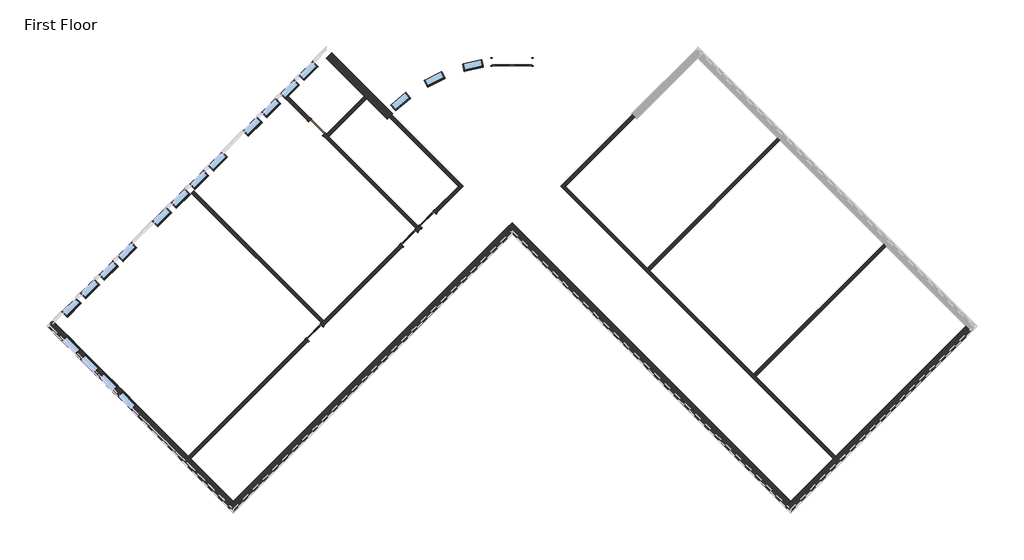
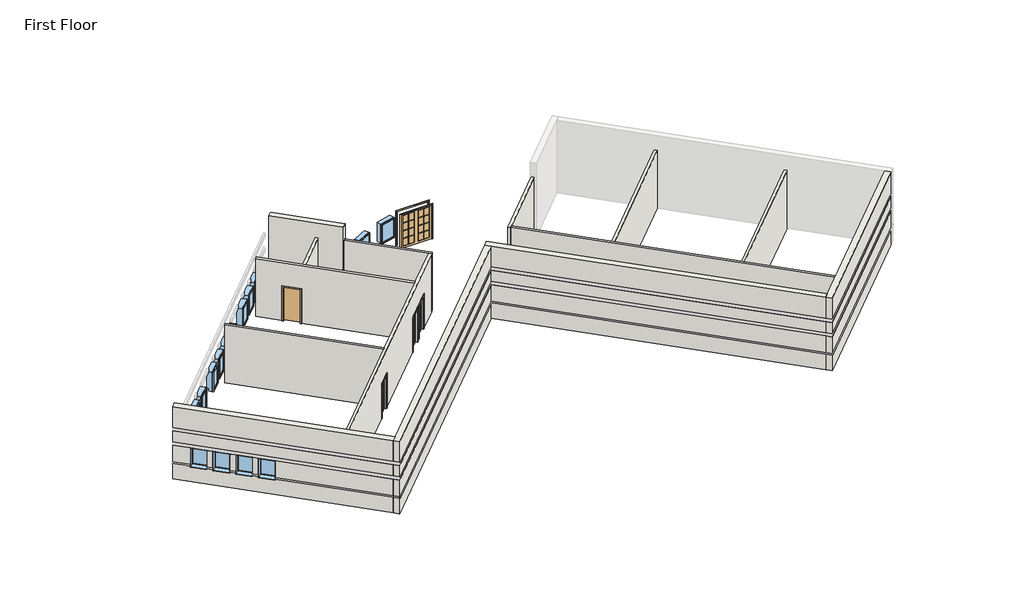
# One storey, part 1 of 2: 19 windows, 14 walls, 5 doors.
"""IFC4 building model written with IfcOpenShell, lengths in millimetres."""

from ifc_helpers import new_model, si_unit, frame, origin, origin_with_axes, place, context, project, spatial, polyline, circle_curve, outline, extrude, faceted_brep, transform, mapped, element, save
from ifc_brep_helpers import plane_surface, cylinder_surface, revolved_surface, advanced_brep
from components import door_0a477ef8, door_f9494b7c, door_b81abb0e, door_5f5b55da, window_15c49d37, window_0e2fc6ce

model = new_model("IFC4")

# Units and contexts
model_context = context("Model", 3, world=origin())
ifc_project = project(units=[si_unit("LENGTHUNIT", "METRE", prefix="MILLI")], contexts=[model_context])

# Site, building, storey
site = spatial("IfcSite", under=ifc_project)
building = spatial("IfcBuilding", under=site)
storey = spatial("IfcBuildingStorey", under=building, Name="First Floor", Elevation=0.0)

# Doors
placement = place(None, origin())
door_shape = door_0a477ef8(model_context)
element("IfcDoor", 1, ObjectType="Double-Glass 2 : 72\" x 84\"", at=placement, inside=storey, context=model_context, shape_type="MappedRepresentation", body=[
    mapped(door_shape, transform((-2868.7603243, 10905.5717204, 0.0), x_axis=(-0.9999999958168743, -9.146721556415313e-05, 0.0), y_axis=(9.146721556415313e-05, -0.9999999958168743, 0.0), z_axis=(0.0, 0.0, 1.0))),
])
door_2_shape = door_f9494b7c(model_context)
element("IfcDoor", 2, ObjectType="Single-Flush : 36\" x 84\"", at=placement, inside=storey, context=model_context, shape_type="MappedRepresentation", body=[
    mapped(door_2_shape, transform((-11920.1265343, 7875.9588464, 0.0), x_axis=(0.7071067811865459, -0.7071067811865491, 0.0), y_axis=(0.7071067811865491, 0.7071067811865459, 0.0), z_axis=(0.0, 0.0, 1.0))),
])
door_3_shape = door_b81abb0e(model_context)
element("IfcDoor", 3, ObjectType="Single-Glass 1 : 36\" x 84\"", at=placement, inside=storey, context=model_context, shape_type="MappedRepresentation", body=[
    mapped(door_3_shape, transform((-12027.7718255, -1647.4849877, 0.0), x_axis=(0.7071067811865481, 0.7071067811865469, 0.0), y_axis=(-0.7071067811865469, 0.7071067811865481, 0.0), z_axis=(0.0, 0.0, 1.0))),
])
element("IfcDoor", 4, ObjectType="Single-Glass 1 : 36\" x 84\"", at=placement, inside=storey, context=model_context, shape_type="MappedRepresentation", body=[
    mapped(door_3_shape, transform((-7643.2795567, 2737.0072811, 0.0), x_axis=(0.7071067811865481, 0.7071067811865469, 0.0), y_axis=(-0.7071067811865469, 0.7071067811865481, 0.0), z_axis=(0.0, 0.0, 1.0))),
])
door_4_shape = door_5f5b55da(model_context)
element("IfcDoor", 5, ObjectType="Single-Glass 1 : 36\" x 84\"", at=placement, inside=storey, context=model_context, shape_type="MappedRepresentation", body=[
    mapped(door_4_shape, transform((-6781.1749691, 3599.1118687, 0.0), x_axis=(-0.7071067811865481, -0.7071067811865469, 0.0), y_axis=(0.7071067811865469, -0.7071067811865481, 0.0), z_axis=(0.0, 0.0, 1.0))),
])

# Walls
element("IfcWall", 6, ObjectType="Exterior - Split Face and CMU on Mtl. Stud", at=placement, inside=storey, context=model_context, shape_type="Brep", body=[
    faceted_brep([(18186.1821115, -1357.9895101, 4572.0), (10063.54045, -9480.6311716, 4572.0), (9814.3383427, -9729.833279, 4572.0), (10063.54045, -9979.0353863, 4572.0), (18435.3842189, -1607.1916175, 4572.0), (18186.1821115, -1357.9895101, 0.0), (12149.2049342, -7394.9666875, 0.0), (12039.1967967, -7504.974825, 0.0), (10063.54045, -9480.6311716, 0.0), (9814.3383427, -9729.833279, 0.0), (9814.3383427, -9729.833279, 1016.0), (9879.4451996, -9664.7264221, 1016.0), (9879.4451996, -9664.7264221, 1085.85), (9814.3383427, -9729.833279, 1085.85), (9814.3383427, -9729.833279, 2133.6), (9879.4451996, -9664.7264221, 2133.6), (9879.4451996, -9664.7264221, 2336.8), (9814.3383427, -9729.833279, 2336.8), (9814.3383427, -9729.833279, 3048.0), (9879.4451996, -9664.7264221, 3048.0), (9879.4451996, -9664.7264221, 3251.2), (9814.3383427, -9729.833279, 3251.2), (10063.54045, -9979.0353863, 3251.2), (18435.3842189, -1607.1916175, 3251.2), (10063.54045, -9979.0353863, 0.0), (18435.3842189, -1607.1916175, 0.0), (18435.3842189, -1607.1916175, 1016.0), (10063.54045, -9979.0353863, 1016.0), (10063.54045, -9979.0353863, 1085.85), (18435.3842189, -1607.1916175, 1085.85), (18435.3842189, -1607.1916175, 2133.6), (10063.54045, -9979.0353863, 2133.6), (10063.54045, -9979.0353863, 2336.8), (18435.3842189, -1607.1916175, 2336.8), (18435.3842189, -1607.1916175, 3048.0), (10063.54045, -9979.0353863, 3048.0), (18370.277362, -1542.0847606, 0.0), (9998.4335932, -9913.9285294, 0.0), (18370.277362, -1542.0847606, 3251.2), (18370.277362, -1542.0847606, 3048.0), (18370.277362, -1542.0847606, 2336.8), (18370.277362, -1542.0847606, 2133.6), (18370.277362, -1542.0847606, 1085.85), (18370.277362, -1542.0847606, 1016.0), (10063.54045, -9848.8216726, 1085.85), (10063.54045, -9848.8216726, 1016.0), (10063.54045, -9848.8216726, 2133.6), (10063.54045, -9848.8216726, 2336.8), (10063.54045, -9848.8216726, 3048.0), (10063.54045, -9848.8216726, 3251.2)], [[[0, 1, 2, 3, 4]], [[5, 6, 7, 8, 9, 10, 11, 12, 13, 14, 15, 16, 17, 18, 19, 20, 21, 2, 1, 0]], [[4, 3, 22, 23]], [[24, 25, 26, 27]], [[28, 29, 30, 31]], [[32, 33, 34, 35]], [[9, 8, 7, 6, 5, 36, 37]], [[5, 0, 4, 23, 38, 39, 34, 33, 40, 41, 30, 29, 42, 43, 26, 25, 36]], [[25, 24, 37, 36]], [[3, 2, 21, 22]], [[9, 37, 24, 27, 10]], [[13, 28, 31, 14]], [[17, 32, 35, 18]], [[12, 44, 42, 29, 28, 13]], [[43, 45, 11, 10, 27, 26]], [[44, 45, 43, 42]], [[45, 44, 12, 11]], [[41, 46, 15, 14, 31, 30]], [[16, 47, 40, 33, 32, 17]], [[47, 46, 41, 40]], [[46, 47, 16, 15]], [[39, 48, 19, 18, 35, 34]], [[20, 49, 38, 23, 22, 21]], [[49, 48, 39, 38]], [[48, 49, 20, 19]]]),
])
element("IfcWall", 7, ObjectType="Exterior - Split Face and CMU on Mtl. Stud", at=placement, inside=storey, context=model_context, shape_type="Brep", body=[
    faceted_brep([(10063.54045, -9480.6311716, 0.0), (-2868.0283643, 3450.9376427, 0.0), (-2868.0283643, 3450.9376427, 4572.0), (10063.54045, -9480.6311716, 4572.0), (9814.3383427, -9729.833279, 4572.0), (-2868.0283643, 2952.533428, 4572.0), (-3117.2304717, 3201.7355354, 4572.0), (-3117.2304717, 3201.7355354, 0.0), (-2868.0283643, 2952.533428, 0.0), (9814.3383427, -9729.833279, 0.0), (9814.3383427, -9729.833279, 1016.0), (-2868.0283643, 2952.533428, 1016.0), (-2933.1352212, 3017.6402849, 1016.0), (-2933.1352212, 3017.6402849, 1085.85), (-2868.0283643, 2952.533428, 1085.85), (9814.3383427, -9729.833279, 1085.85), (9814.3383427, -9729.833279, 2133.6), (-2868.0283643, 2952.533428, 2133.6), (-2933.1352212, 3017.6402849, 2133.6), (-2933.1352212, 3017.6402849, 2336.8), (-2868.0283643, 2952.533428, 2336.8), (9814.3383427, -9729.833279, 2336.8), (9814.3383427, -9729.833279, 3048.0), (-2868.0283643, 2952.533428, 3048.0), (-2933.1352212, 3017.6402849, 3048.0), (-2933.1352212, 3017.6402849, 3251.2), (-2868.0283643, 2952.533428, 3251.2), (9814.3383427, -9729.833279, 3251.2), (-3052.1236148, 3266.8423923, 0.0), (9879.4451996, -9664.7264221, 3251.2), (9879.4451996, -9664.7264221, 3048.0), (9879.4451996, -9664.7264221, 2336.8), (9879.4451996, -9664.7264221, 2133.6), (9879.4451996, -9664.7264221, 1085.85), (9879.4451996, -9664.7264221, 1016.0), (9879.4451996, -9664.7264221, 0.0), (-2868.0283643, 3082.7471418, 1085.85), (-2868.0283643, 3082.7471418, 1016.0), (-2868.0283643, 3082.7471418, 2133.6), (-2868.0283643, 3082.7471418, 2336.8), (-2868.0283643, 3082.7471418, 3048.0), (-2868.0283643, 3082.7471418, 3251.2)], [[[0, 1, 2, 3]], [[4, 5, 6, 7, 8, 9, 10, 11, 12, 13, 14, 15, 16, 17, 18, 19, 20, 21, 22, 23, 24, 25, 26, 27]], [[3, 2, 6, 5, 4]], [[2, 1, 28, 7, 6]], [[0, 3, 4, 27, 29, 30, 22, 21, 31, 32, 16, 15, 33, 34, 10, 9, 35]], [[1, 0, 35, 28]], [[35, 9, 8, 7, 28]], [[13, 36, 33, 15, 14]], [[34, 37, 12, 11, 10]], [[36, 37, 34, 33]], [[37, 36, 13, 12]], [[32, 38, 18, 17, 16]], [[19, 39, 31, 21, 20]], [[39, 38, 32, 31]], [[38, 39, 19, 18]], [[30, 40, 24, 23, 22]], [[25, 41, 29, 27, 26]], [[41, 40, 30, 29]], [[40, 41, 25, 24]]]),
])
element("IfcWall", 8, ObjectType="Exterior - Split Face and CMU on Mtl. Stud", at=placement, inside=storey, context=model_context, shape_type="Brep", body=[
    faceted_brep([(-3117.2304717, 3201.7355354, 4572.0), (-15799.5971786, -9480.6311716, 4572.0), (-16048.799286, -9729.833279, 4572.0), (-15799.5971786, -9979.0353863, 4572.0), (-2868.0283643, 2952.533428, 4572.0), (-3117.2304717, 3201.7355354, 0.0), (-15799.5971786, -9480.6311716, 0.0), (-16048.799286, -9729.833279, 0.0), (-16048.799286, -9729.833279, 1016.0), (-15983.6924291, -9664.7264221, 1016.0), (-15983.6924291, -9664.7264221, 1085.85), (-16048.799286, -9729.833279, 1085.85), (-16048.799286, -9729.833279, 2133.6), (-15983.6924291, -9664.7264221, 2133.6), (-15983.6924291, -9664.7264221, 2336.8), (-16048.799286, -9729.833279, 2336.8), (-16048.799286, -9729.833279, 3048.0), (-15983.6924291, -9664.7264221, 3048.0), (-15983.6924291, -9664.7264221, 3251.2), (-16048.799286, -9729.833279, 3251.2), (-15799.5971786, -9979.0353863, 3251.2), (-2868.0283643, 2952.533428, 3251.2), (-15799.5971786, -9979.0353863, 0.0), (-2868.0283643, 2952.533428, 0.0), (-2868.0283643, 2952.533428, 1016.0), (-15799.5971786, -9979.0353863, 1016.0), (-15799.5971786, -9979.0353863, 1085.85), (-2868.0283643, 2952.533428, 1085.85), (-2868.0283643, 2952.533428, 2133.6), (-15799.5971786, -9979.0353863, 2133.6), (-15799.5971786, -9979.0353863, 2336.8), (-2868.0283643, 2952.533428, 2336.8), (-2868.0283643, 2952.533428, 3048.0), (-15799.5971786, -9979.0353863, 3048.0), (-2933.1352212, 3017.6402849, 0.0), (-15864.7040355, -9913.9285294, 0.0), (-2933.1352212, 3017.6402849, 3251.2), (-2933.1352212, 3017.6402849, 3048.0), (-2933.1352212, 3017.6402849, 2336.8), (-2933.1352212, 3017.6402849, 2133.6), (-2933.1352212, 3017.6402849, 1085.85), (-2933.1352212, 3017.6402849, 1016.0), (-15799.5971786, -9848.8216726, 1085.85), (-15799.5971786, -9848.8216726, 1016.0), (-15799.5971786, -9848.8216726, 2133.6), (-15799.5971786, -9848.8216726, 2336.8), (-15799.5971786, -9848.8216726, 3048.0), (-15799.5971786, -9848.8216726, 3251.2)], [[[0, 1, 2, 3, 4]], [[5, 6, 7, 8, 9, 10, 11, 12, 13, 14, 15, 16, 17, 18, 19, 2, 1, 0]], [[4, 3, 20, 21]], [[22, 23, 24, 25]], [[26, 27, 28, 29]], [[30, 31, 32, 33]], [[7, 6, 5, 34, 35]], [[5, 0, 4, 21, 36, 37, 32, 31, 38, 39, 28, 27, 40, 41, 24, 23, 34]], [[23, 22, 35, 34]], [[3, 2, 19, 20]], [[7, 35, 22, 25, 8]], [[11, 26, 29, 12]], [[15, 30, 33, 16]], [[10, 42, 40, 27, 26, 11]], [[41, 43, 9, 8, 25, 24]], [[42, 43, 41, 40]], [[43, 42, 10, 9]], [[39, 44, 13, 12, 29, 28]], [[14, 45, 38, 31, 30, 15]], [[45, 44, 39, 38]], [[44, 45, 14, 13]], [[37, 46, 17, 16, 33, 32]], [[18, 47, 36, 21, 20, 19]], [[47, 46, 37, 36]], [[46, 47, 18, 17]]]),
])
element("IfcWall", 9, ObjectType="Exterior - Split Face and CMU on Mtl. Stud", at=placement, inside=storey, context=model_context, shape_type="Brep", body=[
    faceted_brep([(-15799.5971786, -9480.6311716, 4572.0), (-23922.2388402, -1357.9895101, 4572.0), (-24171.4409475, -1108.7874027, 4572.0), (-24420.6430549, -1357.9895101, 4572.0), (-16048.799286, -9729.833279, 4572.0), (-15799.5971786, -9480.6311716, 0.0), (-17775.2535253, -7504.974825, 0.0), (-17885.2616628, -7394.9666875, 0.0), (-23922.2388402, -1357.9895101, 0.0), (-24171.4409475, -1108.7874027, 0.0), (-24171.4409475, -1108.7874027, 1016.0), (-24106.3340906, -1173.8942596, 1016.0), (-24106.3340906, -1173.8942596, 1085.85), (-24171.4409475, -1108.7874027, 1085.85), (-24171.4409475, -1108.7874027, 2133.6), (-24106.3340906, -1173.8942596, 2133.6), (-24106.3340906, -1173.8942596, 2336.8), (-24171.4409475, -1108.7874027, 2336.8), (-24171.4409475, -1108.7874027, 3048.0), (-24106.3340906, -1173.8942596, 3048.0), (-24106.3340906, -1173.8942596, 3251.2), (-24171.4409475, -1108.7874027, 3251.2), (-20921.7107637, -4358.5175865, 2133.6), (-20921.7107637, -4358.5175865, 914.4), (-20275.132323, -5005.0960273, 914.4), (-20275.132323, -5005.0960273, 2133.6), (-21783.8153513, -3496.4129989, 2133.6), (-21783.8153513, -3496.4129989, 914.4), (-21137.2369106, -4142.9914396, 914.4), (-21137.2369106, -4142.9914396, 2133.6), (-22645.9199389, -2634.3084113, 2133.6), (-22645.9199389, -2634.3084113, 914.4), (-21999.3414982, -3280.886852, 914.4), (-21999.3414982, -3280.886852, 2133.6), (-23508.0245266, -1772.2038237, 2133.6), (-23508.0245266, -1772.2038237, 914.4), (-22861.4460859, -2418.7822644, 914.4), (-22861.4460859, -2418.7822644, 2133.6), (-24420.6430549, -1357.9895101, 3251.2), (-16048.799286, -9729.833279, 3251.2), (-24420.6430549, -1357.9895101, 0.0), (-16048.799286, -9729.833279, 0.0), (-16048.799286, -9729.833279, 1016.0), (-20524.3344303, -5254.2981346, 1016.0), (-20524.3344303, -5254.2981346, 914.4), (-21170.9128711, -4607.7196939, 914.4), (-21170.9128711, -4607.7196939, 1016.0), (-21386.439018, -4392.193547, 1016.0), (-21386.439018, -4392.193547, 914.4), (-22033.0174587, -3745.6151063, 914.4), (-22033.0174587, -3745.6151063, 1016.0), (-22248.5436056, -3530.0889594, 1016.0), (-22248.5436056, -3530.0889594, 914.4), (-22895.1220463, -2883.5105187, 914.4), (-22895.1220463, -2883.5105187, 1016.0), (-23110.6481932, -2667.9843718, 1016.0), (-23110.6481932, -2667.9843718, 914.4), (-23757.2266339, -2021.405931, 914.4), (-23757.2266339, -2021.405931, 1016.0), (-24420.6430549, -1357.9895101, 1016.0), (-20524.3344303, -5254.2981346, 2133.6), (-20524.3344303, -5254.2981346, 1085.85), (-16048.799286, -9729.833279, 1085.85), (-16048.799286, -9729.833279, 2133.6), (-21170.9128711, -4607.7196939, 1085.85), (-21170.9128711, -4607.7196939, 2133.6), (-21386.439018, -4392.193547, 2133.6), (-21386.439018, -4392.193547, 1085.85), (-22033.0174587, -3745.6151063, 1085.85), (-22033.0174587, -3745.6151063, 2133.6), (-22248.5436056, -3530.0889594, 2133.6), (-22248.5436056, -3530.0889594, 1085.85), (-22895.1220463, -2883.5105187, 1085.85), (-22895.1220463, -2883.5105187, 2133.6), (-23110.6481932, -2667.9843718, 2133.6), (-23110.6481932, -2667.9843718, 1085.85), (-23757.2266339, -2021.405931, 1085.85), (-23757.2266339, -2021.405931, 2133.6), (-24420.6430549, -1357.9895101, 2133.6), (-24420.6430549, -1357.9895101, 1085.85), (-24420.6430549, -1357.9895101, 2336.8), (-16048.799286, -9729.833279, 2336.8), (-16048.799286, -9729.833279, 3048.0), (-24420.6430549, -1357.9895101, 3048.0), (-15983.6924291, -9664.7264221, 0.0), (-24355.536198, -1292.8826532, 0.0), (-15983.6924291, -9664.7264221, 3251.2), (-15983.6924291, -9664.7264221, 3048.0), (-15983.6924291, -9664.7264221, 2336.8), (-15983.6924291, -9664.7264221, 2133.6), (-15983.6924291, -9664.7264221, 1085.85), (-15983.6924291, -9664.7264221, 1016.0), (-21105.8060142, -4542.612837, 2133.6), (-21105.8060142, -4542.612837, 1085.85), (-21105.8060142, -4542.612837, 1016.0), (-20459.2275735, -5189.1912777, 1016.0), (-20459.2275735, -5189.1912777, 1085.85), (-20459.2275735, -5189.1912777, 2133.6), (-21967.9106018, -3680.5082494, 2133.6), (-21967.9106018, -3680.5082494, 1085.85), (-21967.9106018, -3680.5082494, 1016.0), (-21321.3321611, -4327.0866901, 1016.0), (-21321.3321611, -4327.0866901, 1085.85), (-21321.3321611, -4327.0866901, 2133.6), (-22830.0151894, -2818.4036618, 2133.6), (-22830.0151894, -2818.4036618, 1085.85), (-22830.0151894, -2818.4036618, 1016.0), (-22183.4367487, -3464.9821025, 1016.0), (-22183.4367487, -3464.9821025, 1085.85), (-22183.4367487, -3464.9821025, 2133.6), (-23692.119777, -1956.2990742, 2133.6), (-23692.119777, -1956.2990742, 1085.85), (-23692.119777, -1956.2990742, 1016.0), (-23045.5413363, -2602.8775149, 1016.0), (-23045.5413363, -2602.8775149, 1085.85), (-23045.5413363, -2602.8775149, 2133.6), (-24290.4293411, -1357.9895101, 1085.85), (-24290.4293411, -1357.9895101, 1016.0), (-24290.4293411, -1357.9895101, 2133.6), (-24290.4293411, -1357.9895101, 2336.8), (-24290.4293411, -1357.9895101, 3048.0), (-24290.4293411, -1357.9895101, 3251.2)], [[[0, 1, 2, 3, 4]], [[5, 6, 7, 8, 9, 10, 11, 12, 13, 14, 15, 16, 17, 18, 19, 20, 21, 2, 1, 0], [22, 23, 24, 25], [26, 27, 28, 29], [30, 31, 32, 33], [34, 35, 36, 37]], [[4, 3, 38, 39]], [[40, 41, 42, 43, 44, 45, 46, 47, 48, 49, 50, 51, 52, 53, 54, 55, 56, 57, 58, 59]], [[60, 61, 62, 63]], [[64, 65, 66, 67]], [[68, 69, 70, 71]], [[72, 73, 74, 75]], [[76, 77, 78, 79]], [[80, 81, 82, 83]], [[9, 8, 7, 6, 5, 84, 85]], [[5, 0, 4, 39, 86, 87, 82, 81, 88, 89, 63, 62, 90, 91, 42, 41, 84]], [[41, 40, 85, 84]], [[3, 2, 21, 38]], [[9, 85, 40, 59, 10]], [[13, 79, 78, 14]], [[17, 80, 83, 18]], [[23, 22, 92, 65, 64, 93, 94, 46, 45]], [[24, 23, 45, 44]], [[25, 24, 44, 43, 95, 96, 61, 60, 97]], [[22, 25, 97, 92]], [[27, 26, 98, 69, 68, 99, 100, 50, 49]], [[28, 27, 49, 48]], [[29, 28, 48, 47, 101, 102, 67, 66, 103]], [[26, 29, 103, 98]], [[31, 30, 104, 73, 72, 105, 106, 54, 53]], [[32, 31, 53, 52]], [[33, 32, 52, 51, 107, 108, 71, 70, 109]], [[30, 33, 109, 104]], [[35, 34, 110, 77, 76, 111, 112, 58, 57]], [[36, 35, 57, 56]], [[37, 36, 56, 55, 113, 114, 75, 74, 115]], [[34, 37, 115, 110]], [[96, 90, 62, 61]], [[91, 95, 43, 42]], [[90, 96, 95, 91]], [[102, 93, 64, 67]], [[94, 101, 47, 46]], [[93, 102, 101, 94]], [[108, 99, 68, 71]], [[100, 107, 51, 50]], [[99, 108, 107, 100]], [[114, 105, 72, 75]], [[106, 113, 55, 54]], [[105, 114, 113, 106]], [[116, 111, 76, 79, 13, 12]], [[112, 117, 11, 10, 59, 58]], [[111, 116, 117, 112]], [[117, 116, 12, 11]], [[92, 103, 66, 65]], [[98, 109, 70, 69]], [[110, 118, 15, 14, 78, 77]], [[104, 115, 74, 73]], [[89, 97, 60, 63]], [[16, 119, 88, 81, 80, 17]], [[119, 118, 110, 115, 104, 109, 98, 103, 92, 97, 89, 88]], [[118, 119, 16, 15]], [[87, 120, 19, 18, 83, 82]], [[20, 121, 86, 39, 38, 21]], [[121, 120, 87, 86]], [[120, 121, 20, 19]]]),
])
element("IfcWall", 10, ObjectType="Exterior - Split Face and CMU on Mtl. Stud", at=placement, inside=storey, context=model_context, shape_type="AdvancedBrep", body=[
    advanced_brep(
    [(-11489.0742405, 11075.1750895, 0.0), (-9728.9440408, 9315.0448898, 0.0), (-9618.9359033, 9205.0367523, 0.0), (-8658.0122729, 8244.1131219, 0.0), (-8658.0122729, 8244.1131219, 4572.0), (-11489.0742405, 11075.1750895, 4572.0), (-11239.8721332, 11324.3771969, 4572.0), (-8662.486224, 8746.9912878, 4572.0), (-8413.2817722, 8497.7868359, 4572.0), (-8413.2817722, 8497.7868359, 0.0), (-8662.486224, 8746.9912878, 0.0), (-11239.8721332, 11324.3771969, 0.0), (-11239.8721332, 11324.3771969, 1016.0), (-8662.486224, 8746.9912878, 1016.0), (-8597.3787742, 8681.8838379, 1016.0), (-8597.3787742, 8681.8838379, 1085.85), (-8662.486224, 8746.9912878, 1085.85), (-11239.8721332, 11324.3771969, 1085.85), (-11239.8721332, 11324.3771969, 2133.6), (-8662.486224, 8746.9912878, 2133.6), (-8597.3787742, 8681.8838379, 2133.6), (-8597.3787742, 8681.8838379, 2336.8), (-8662.486224, 8746.9912878, 2336.8), (-11239.8721332, 11324.3771969, 2336.8), (-11239.8721332, 11324.3771969, 3048.0), (-8662.486224, 8746.9912878, 3048.0), (-8597.3787742, 8681.8838379, 3048.0), (-8597.3787742, 8681.8838379, 3251.2), (-8662.486224, 8746.9912878, 3251.2), (-11239.8721332, 11324.3771969, 3251.2), (-8557.713594, 8350.8358404, 0.0), (-8478.2967797, 8432.5881297, 0.0), (-8449.0111375, 8462.1452813, 0.0), (-11304.9789901, 11259.27034, 3251.2), (-11304.9789901, 11259.27034, 3048.0), (-11304.9789901, 11259.27034, 2336.8), (-11304.9789901, 11259.27034, 2133.6), (-11304.9789901, 11259.27034, 1085.85), (-11304.9789901, 11259.27034, 1016.0), (-11304.9789901, 11259.27034, 0.0), (-8662.3967205, 8616.6880705, 1085.85), (-8662.3967205, 8616.6880705, 1016.0), (-8662.3967205, 8616.6880705, 2336.8), (-8662.3967205, 8616.6880705, 2133.6), (-8662.3967205, 8616.6880705, 3251.2), (-8662.3967205, 8616.6880705, 3048.0)],
    [
        (0, 1),
        (1, 2),
        (2, 3),
        (3, 4),
        (4, 5),
        (5, 0),
        (6, 7),
        (7, 8),
        (8, 9),
        (9, 10),
        (10, 11),
        (11, 12),
        (12, 13),
        (13, 14),
        (14, 15),
        (15, 16),
        (16, 17),
        (17, 18),
        (18, 19),
        (19, 20),
        (20, 21),
        (21, 22),
        (22, 23),
        (23, 24),
        (24, 25),
        (25, 26),
        (26, 27),
        (27, 28),
        (28, 29),
        (29, 6),
        (4, 8, circle_curve(frame((-2868.0283643, 2903.1420194, 4572.0), z_axis=(0.0, 0.0, -1.0), x_axis=(1.0, 0.0, 0.0)), 7877.175)),
        (6, 5),
        (3, 30, circle_curve(frame((-2868.0283643, 2903.1420194, 0.0), z_axis=(0.0, 0.0, -1.0), x_axis=(1.0, 0.0, 0.0)), 7877.175)),
        (30, 31, circle_curve(frame((-2868.0283643, 2903.1420194, 0.0), z_axis=(0.0, 0.0, -1.0), x_axis=(1.0, 0.0, 0.0)), 7877.175)),
        (31, 32, circle_curve(frame((-2868.0283643, 2903.1420194, 0.0), z_axis=(0.0, 0.0, -1.0), x_axis=(1.0, 0.0, 0.0)), 7877.175)),
        (32, 9, circle_curve(frame((-2868.0283643, 2903.1420194, 0.0), z_axis=(0.0, 0.0, -1.0), x_axis=(1.0, 0.0, 0.0)), 7877.175)),
        (29, 33),
        (33, 34),
        (34, 24),
        (23, 35),
        (35, 36),
        (36, 18),
        (17, 37),
        (37, 38),
        (38, 12),
        (11, 39),
        (39, 0),
        (39, 31),
        (40, 41),
        (41, 38),
        (37, 40),
        (15, 40, circle_curve(frame((-2868.0283643, 2903.1420194, 1085.85), z_axis=(0.0, 0.0, 1.0), x_axis=(-0.7040995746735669, 0.7101012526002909, 0.0)), 8137.525)),
        (41, 14, circle_curve(frame((-2868.0283643, 2903.1420194, 1016.0), z_axis=(0.0, 0.0, -1.0), x_axis=(-0.7040995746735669, 0.7101012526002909, 0.0)), 8137.525)),
        (42, 43),
        (43, 36),
        (35, 42),
        (43, 20, circle_curve(frame((-2868.0283643, 2903.1420194, 2133.6), z_axis=(0.0, 0.0, -1.0), x_axis=(-0.7120553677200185, 0.70212331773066, 0.0)), 8137.525)),
        (42, 21, circle_curve(frame((-2868.0283643, 2903.1420194, 2336.8), z_axis=(0.0, 0.0, -1.0), x_axis=(-0.7120553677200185, 0.70212331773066, 0.0)), 8137.525)),
        (44, 45),
        (45, 34),
        (33, 44),
        (45, 26, circle_curve(frame((-2868.0283643, 2903.1420194, 3048.0), z_axis=(0.0, 0.0, -1.0), x_axis=(-0.7120553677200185, 0.70212331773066, 0.0)), 8137.525)),
        (44, 27, circle_curve(frame((-2868.0283643, 2903.1420194, 3251.2), z_axis=(0.0, 0.0, -1.0), x_axis=(-0.7120553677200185, 0.70212331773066, 0.0)), 8137.525)),
    ],
    [
        plane_surface(frame((-11738.2763479, 11324.3771969, 0.0), z_axis=(-0.7071067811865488, -0.7071067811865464, 0.0), x_axis=(0.7071067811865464, -0.7071067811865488, 0.0))),
        plane_surface(frame((-11489.0742405, 11573.5793042, 0.0), z_axis=(0.7071067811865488, 0.7071067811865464, 0.0), x_axis=(-0.7071067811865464, 0.7071067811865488, 0.0))),
        plane_surface(frame((-8786.2632499, 8372.3640989, 4572.0), z_axis=(0.0, 0.0, 1.0), x_axis=(0.7071067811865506, 0.7071067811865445, 0.0))),
        revolved_surface(polyline([(5009.146635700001, 2903.1420194, 0.0), (5009.146635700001, 2903.1420194, 4572.0)]), (-2868.0283643, 2903.1420194, 0.0), (0.0, 0.0, -1.0)),
        plane_surface(frame((-24171.4409475, -1607.1916175, 0.0), z_axis=(-0.7071067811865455, 0.7071067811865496, 0.0), x_axis=(0.7071067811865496, 0.7071067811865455, 0.0))),
        plane_surface(frame((-11613.6752942, 11199.7761432, 0.0), z_axis=(0.0, 0.0, -1.0000000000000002), x_axis=(0.7071067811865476, 0.7071067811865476, 0.0))),
        plane_surface(frame((0.0, 0.0, 0.0), z_axis=(0.0, 0.0, -1.0), x_axis=(1.0, 0.0, 0.0))),
        plane_surface(frame((-11489.0742405, 11443.3655905, 1016.0), z_axis=(0.7071067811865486, 0.7071067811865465, 0.0), x_axis=(0.7071067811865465, -0.7071067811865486, 0.0))),
        plane_surface(frame((-2868.0283643, 2903.1420194, 1085.85), z_axis=(0.0, 0.0, -1.0), x_axis=(-0.7040995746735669, 0.7101012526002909, 0.0))),
        plane_surface(frame((-2868.0283643, 2903.1420194, 1016.0), z_axis=(0.0, 0.0, 1.0), x_axis=(-0.7040995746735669, 0.7101012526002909, 0.0))),
        cylinder_surface(frame((-2868.0283643, 2903.1420194, 1016.0), z_axis=(0.0, 0.0, -1.0), x_axis=(-0.7040995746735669, 0.7101012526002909, 0.0)), 8137.525),
        plane_surface(frame((-11489.0742405, 11443.3655905, 2133.6), z_axis=(0.7071067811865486, 0.7071067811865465, 0.0), x_axis=(0.7071067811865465, -0.7071067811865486, 0.0))),
        plane_surface(frame((-2868.0283643, 2903.1420194, 2133.6), z_axis=(0.0, 0.0, 1.0), x_axis=(-0.7120553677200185, 0.70212331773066, 0.0))),
        cylinder_surface(frame((-2868.0283643, 2903.1420194, 2133.6), z_axis=(0.0, 0.0, -1.0), x_axis=(-0.7120553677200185, 0.70212331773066, 0.0)), 8137.525),
        plane_surface(frame((-2868.0283643, 2903.1420194, 2336.8), z_axis=(0.0, 0.0, -1.0), x_axis=(-0.7120553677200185, 0.70212331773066, 0.0))),
        plane_surface(frame((-11489.0742405, 11443.3655905, 3048.0), z_axis=(0.7071067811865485, 0.7071067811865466, 0.0), x_axis=(0.7071067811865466, -0.7071067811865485, 0.0))),
        plane_surface(frame((-2868.0283643, 2903.1420194, 3048.0), z_axis=(0.0, 0.0, 1.0), x_axis=(-0.7120553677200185, 0.70212331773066, 0.0))),
        cylinder_surface(frame((-2868.0283643, 2903.1420194, 3048.0), z_axis=(0.0, 0.0, -1.0), x_axis=(-0.7120553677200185, 0.70212331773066, 0.0)), 8137.525),
        plane_surface(frame((-2868.0283643, 2903.1420194, 3251.2), z_axis=(0.0, 0.0, -1.0), x_axis=(-0.7120553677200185, 0.70212331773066, 0.0))),
    ],
    [
        (0, [[1, 2, 3, 4, 5, 6]]),
        (1, [[7, 8, 9, 10, 11, 12, 13, 14, 15, 16, 17, 18, 19, 20, 21, 22, 23, 24, 25, 26, 27, 28, 29, 30]]),
        (2, [[-5, 31, -8, -7, 32]]),
        (3, [[-31, -4, 33, 34, 35, 36, -9]]),
        (4, [[-6, -32, -30, 37, 38, 39, -24, 40, 41, 42, -18, 43, 44, 45, -12, 46, 47]]),
        (5, [[-3, -2, -1, -47, 48, -34, -33]]),
        (6, [[-46, -11, -10, -36, -35, -48]]),
        (7, [[49, 50, -44, 51]]),
        (8, [[52, -51, -43, -17, -16]]),
        (9, [[-50, 53, -14, -13, -45]]),
        (10, [[-49, -52, -15, -53]]),
        (11, [[54, 55, -41, 56]]),
        (12, [[-55, 57, -20, -19, -42]]),
        (13, [[-54, 58, -21, -57]]),
        (14, [[-58, -56, -40, -23, -22]]),
        (15, [[59, 60, -38, 61]]),
        (16, [[-60, 62, -26, -25, -39]]),
        (17, [[-59, 63, -27, -62]]),
        (18, [[-63, -61, -37, -29, -28]]),
    ],
),
])
element("IfcWall", 11, ObjectType="Interior - 6 1/8\" Partition (2-hr)", at=placement, inside=storey, context=model_context, shape_type="Brep", body=[
    faceted_brep([(-7264.9862676, 3005.2924327, 0.0), (-7049.4601207, 3220.8185796, 0.0), (-7049.4601207, 3220.8185796, 2133.6), (-6402.88168, 3867.3970204, 2133.6), (-6402.88168, 3867.3970204, 0.0), (-5238.5804157, 5031.6982846, 0.0), (-5238.5804157, 5031.6982846, 3657.6), (-17775.2535253, -7504.974825, 3657.6), (-17775.2535253, -7504.974825, 0.0), (-12296.0569771, -2025.7782768, 0.0), (-12296.0569771, -2025.7782768, 2133.6), (-11649.4785364, -1379.1998361, 2133.6), (-11649.4785364, -1379.1998361, 0.0), (-7911.5647083, 2358.713992, 0.0), (-7911.5647083, 2358.713992, 2133.6), (-7264.9862676, 3005.2924327, 2133.6), (-7159.4682582, 3330.8267171, 2133.6), (-7159.4682582, 3330.8267171, 0.0), (-7212.2272629, 3278.0677124, 0.0), (-7322.2354004, 3168.0595749, 0.0), (-7374.9944051, 3115.3005702, 0.0), (-7374.9944051, 3115.3005702, 2133.6), (-8021.5728458, 2468.7221295, 2133.6), (-8021.5728458, 2468.7221295, 0.0), (-11596.7195317, -1106.4245564, 0.0), (-11706.7276692, -1216.4326939, 0.0), (-11759.4866739, -1269.1916986, 0.0), (-11759.4866739, -1269.1916986, 2133.6), (-12406.0651146, -1915.7701393, 2133.6), (-12406.0651146, -1915.7701393, 0.0), (-17885.2616628, -7394.9666875, 0.0), (-17885.2616628, -7394.9666875, 3657.6), (-11706.7276692, -1216.4326939, 3657.6), (-11596.7195317, -1106.4245564, 3657.6), (-7322.2354004, 3168.0595749, 3657.6), (-7212.2272629, 3278.0677124, 3657.6), (-5348.5885532, 5141.7064221, 3657.6), (-5348.5885532, 5141.7064221, 0.0), (-6512.8898174, 3977.4051578, 0.0), (-6512.8898174, 3977.4051578, 2133.6)], [[[0, 1, 2, 3, 4, 5, 6, 7, 8, 9, 10, 11, 12, 13, 14, 15]], [[16, 17, 18, 19, 20, 21, 22, 23, 24, 25, 26, 27, 28, 29, 30, 31, 32, 33, 34, 35, 36, 37, 38, 39]], [[20, 19, 18, 17, 1, 0]], [[9, 8, 30, 29]], [[13, 12, 26, 25, 24, 23]], [[38, 37, 5, 4]], [[7, 6, 36, 35, 34, 33, 32, 31]], [[8, 7, 31, 30]], [[6, 5, 37, 36]], [[27, 26, 12, 11]], [[28, 27, 11, 10]], [[29, 28, 10, 9]], [[21, 20, 0, 15]], [[22, 21, 15, 14]], [[23, 22, 14, 13]], [[2, 1, 17, 16]], [[3, 2, 16, 39]], [[4, 3, 39, 38]]]),
])
element("IfcWall", 12, ObjectType="Interior - 6 1/8\" Partition (2-hr)", at=placement, inside=storey, context=model_context, shape_type="Brep", body=[
    faceted_brep([(-7212.2272629, 3278.0677124, 0.0), (-11379.066103, 7444.9065526, 0.0), (-11489.0742405, 7554.9146901, 0.0), (-11541.8332452, 7607.6736948, 0.0), (-11541.8332452, 7607.6736948, 2133.6), (-12188.411686, 8254.2521355, 2133.6), (-12188.411686, 8254.2521355, 0.0), (-13249.2044403, 9315.0448898, 0.0), (-13249.2044403, 9315.0448898, 3657.6), (-11489.0742405, 7554.9146901, 3657.6), (-11379.066103, 7444.9065526, 3657.6), (-7212.2272629, 3278.0677124, 3657.6), (-11651.8413827, 7497.6655573, 2133.6), (-11651.8413827, 7497.6655573, 0.0), (-7322.2354004, 3168.0595749, 0.0), (-7322.2354004, 3168.0595749, 3657.6), (-13359.2125777, 9205.0367523, 3657.6), (-13359.2125777, 9205.0367523, 0.0), (-12298.4198234, 8144.243998, 0.0), (-12298.4198234, 8144.243998, 2133.6)], [[[0, 1, 2, 3, 4, 5, 6, 7, 8, 9, 10, 11]], [[12, 13, 14, 15, 16, 17, 18, 19]], [[14, 13, 3, 2, 1, 0]], [[18, 17, 7, 6]], [[11, 10, 9, 8, 16, 15]], [[8, 7, 17, 16]], [[0, 11, 15, 14]], [[4, 3, 13, 12]], [[5, 4, 12, 19]], [[6, 5, 19, 18]]]),
])
element("IfcWall", 13, ObjectType="Interior - 6 1/8\" Partition (2-hr)", at=placement, inside=storey, context=model_context, shape_type="AdvancedBrep", body=[
    advanced_brep(
    [(-5128.5722782, 5141.7064221, 0.0), (-8449.0111375, 8462.1452813, 0.0), (-8449.0111375, 8462.1452813, 3657.6), (-5128.5722782, 5141.7064221, 3657.6), (-5238.5804157, 5031.6982846, 0.0), (-5238.5804157, 5031.6982846, 3657.6), (-5348.5885532, 5141.7064221, 3657.6), (-8557.7157352, 8350.8336041, 3657.6), (-8557.7157352, 8350.8336041, 0.0), (-5348.5885532, 5141.7064221, 0.0)],
    [
        (0, 1),
        (1, 2),
        (2, 3),
        (3, 0),
        (4, 5),
        (5, 6),
        (6, 7),
        (7, 8),
        (8, 9),
        (9, 4),
        (0, 4),
        (8, 1, circle_curve(frame((-2868.0283643, 2903.1420194, 0.0), z_axis=(0.0, 0.0, -1.0), x_axis=(1.0, 0.0, 0.0)), 7877.175)),
        (2, 7, circle_curve(frame((-2868.0283643, 2903.1420194, 3657.6), z_axis=(0.0, 0.0, 1.0), x_axis=(1.0, 0.0, 0.0)), 7877.175)),
        (5, 3),
    ],
    [
        plane_surface(frame((-5183.576347, 5196.7104908, 0.0), z_axis=(0.7071067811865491, 0.7071067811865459, 0.0), x_axis=(-0.7071067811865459, 0.7071067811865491, 0.0))),
        plane_surface(frame((-5293.5844845, 5086.7023533, 0.0), z_axis=(-0.7071067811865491, -0.7071067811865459, 0.0), x_axis=(0.7071067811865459, -0.7071067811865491, 0.0))),
        plane_surface(frame((-5183.576347, 5196.7104908, 0.0), z_axis=(0.0, 0.0, -1.0), x_axis=(-0.707106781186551, -0.7071067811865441, 0.0))),
        plane_surface(frame((-8573.2406241, 8586.374768, 3657.6), z_axis=(0.0, 0.0, 1.0), x_axis=(-0.707106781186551, -0.7071067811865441, 0.0))),
        plane_surface(frame((-17899.854579, -7629.5758786, 0.0), z_axis=(0.7071067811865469, -0.7071067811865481, 0.0), x_axis=(0.7071067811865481, 0.7071067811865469, 0.0))),
        cylinder_surface(frame((-2868.0283643, 2903.1420194, 0.0), z_axis=(0.0, 0.0, -1.0), x_axis=(1.0, 0.0, 0.0)), 7877.175),
    ],
    [
        (0, [[1, 2, 3, 4]]),
        (1, [[5, 6, 7, 8, 9, 10]]),
        (2, [[-1, 11, -10, -9, 12]]),
        (3, [[-3, 13, -7, -6, 14]]),
        (4, [[-4, -14, -5, -11]]),
        (5, [[-2, -12, -8, -13]]),
    ],
),
])
element("IfcWall", 14, ObjectType="Interior - 6 1/8\" Partition (2-hr)", at=placement, inside=storey, context=model_context, shape_type="SweptSolid", body=[
    extrude(outline(polyline([(-11489.0742405, 7554.9146901), (-9728.9440408, 9315.0448898), (-9618.9359033, 9205.0367523), (-11379.066103, 7444.9065526), (-11489.0742405, 7554.9146901)])), origin_with_axes(), (0.0, 0.0, 1.0), 3657.6),
])
element("IfcWall", 15, ObjectType="Interior - 6 1/8\" Partition (2-hr)", at=placement, inside=storey, context=model_context, shape_type="SweptSolid", body=[
    extrude(outline(polyline([(-17633.6967091, 4930.552621), (-11596.7195317, -1106.4245564), (-11706.7276692, -1216.4326939), (-17743.7048466, 4820.5444835), (-17633.6967091, 4930.552621)])), origin_with_axes(), (0.0, 0.0, 1.0), 3657.6),
])
element("IfcWall", 16, ObjectType="Interior - 6 1/8\" Partition (2-hr)", at=placement, inside=storey, context=model_context, shape_type="Brep", body=[
    faceted_brep([(-387.4681754, 5141.7064221, 0.0), (3415.9058564, 1338.3323903, 0.0), (3525.9139939, 1228.3242528, 0.0), (8339.3312748, -3585.0930281, 0.0), (8449.3394123, -3695.1011656, 0.0), (12149.2049342, -7394.9666875, 0.0), (12039.1967967, -7504.974825, 0.0), (-497.4763129, 5031.6982846, 0.0), (12149.2049342, -7394.9666875, 3657.6), (8449.3394123, -3695.1011656, 3657.6), (8339.3312748, -3585.0930281, 3657.6), (3525.9139939, 1228.3242528, 3657.6), (3415.9058564, 1338.3323903, 3657.6), (-387.4681754, 5141.7064221, 3657.6), (-497.4763129, 5031.6982846, 3657.6), (12039.1967967, -7504.974825, 3657.6)], [[[0, 1, 2, 3, 4, 5, 6, 7]], [[8, 9, 10, 11, 12, 13, 14, 15]], [[5, 4, 3, 2, 1, 0, 13, 12, 11, 10, 9, 8]], [[6, 15, 14, 7]], [[13, 0, 7, 14]], [[5, 8, 15, 6]]]),
])
element("IfcWall", 17, ObjectType="Interior - 6 1/8\" Partition (2-hr)", at=placement, inside=storey, context=model_context, shape_type="AdvancedBrep", body=[
    advanced_brep(
    [(-497.4763129, 5031.6982846, 0.0), (-387.4681754, 5141.7064221, 0.0), (2821.6590066, 8350.8336041, 0.0), (2821.6590066, 8350.8336041, 3657.6), (-387.4681754, 5141.7064221, 3657.6), (-497.4763129, 5031.6982846, 3657.6), (-607.4844504, 5141.7064221, 0.0), (-607.4844504, 5141.7064221, 3657.6), (2712.9544089, 8462.1452813, 3657.6), (2712.9544089, 8462.1452813, 0.0)],
    [
        (0, 1),
        (1, 2),
        (2, 3),
        (3, 4),
        (4, 5),
        (5, 0),
        (6, 7),
        (7, 8),
        (8, 9),
        (9, 6),
        (0, 6),
        (9, 2, circle_curve(frame((-2868.0283643, 2903.1420194, 0.0), z_axis=(0.0, 0.0, -1.0), x_axis=(1.0, 0.0, 0.0)), 7877.175)),
        (3, 8, circle_curve(frame((-2868.0283643, 2903.1420194, 3657.6), z_axis=(0.0, 0.0, 1.0), x_axis=(1.0, 0.0, 0.0)), 7877.175)),
        (7, 5),
    ],
    [
        plane_surface(frame((-442.4722441, 5086.7023533, 0.0), z_axis=(0.7071067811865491, -0.7071067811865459, 0.0), x_axis=(0.7071067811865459, 0.7071067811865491, 0.0))),
        plane_surface(frame((-552.4803816, 5196.7104908, 0.0), z_axis=(-0.7071067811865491, 0.7071067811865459, 0.0), x_axis=(-0.7071067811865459, -0.7071067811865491, 0.0))),
        plane_surface(frame((-442.4722441, 5086.7023533, 0.0), z_axis=(0.0, 0.0, -1.0), x_axis=(-0.707106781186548, 0.7071067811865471, 0.0))),
        plane_surface(frame((2947.192033, 8476.3666305, 3657.6), z_axis=(0.0, 0.0, 1.0000000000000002), x_axis=(-0.7071067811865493, 0.7071067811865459, 0.0))),
        plane_surface(frame((12163.7978503, -7629.5758786, 0.0), z_axis=(-0.7071067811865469, -0.7071067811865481, 0.0), x_axis=(0.7071067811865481, -0.7071067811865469, 0.0))),
        cylinder_surface(frame((-2868.0283643, 2903.1420194, 0.0), z_axis=(0.0, 0.0, -1.0), x_axis=(1.0, 0.0, 0.0)), 7877.175),
    ],
    [
        (0, [[1, 2, 3, 4, 5, 6]]),
        (1, [[7, 8, 9, 10]]),
        (2, [[-2, -1, 11, -10, 12]]),
        (3, [[-5, -4, 13, -8, 14]]),
        (4, [[-6, -14, -7, -11]]),
        (5, [[-3, -12, -9, -13]]),
    ],
),
])
element("IfcWall", 18, ObjectType="Interior - 6 1/8\" Partition (2-hr)", at=placement, inside=storey, context=model_context, shape_type="SweptSolid", body=[
    extrude(outline(polyline([(3415.9058564, 1338.3323903), (9452.8830338, 7375.3095676), (9562.8911713, 7265.3014302), (3525.9139939, 1228.3242528), (3415.9058564, 1338.3323903)])), origin_with_axes(), (0.0, 0.0, 1.0), 3657.6),
])
element("IfcWall", 19, ObjectType="Interior - 6 1/8\" Partition (2-hr)", at=placement, inside=storey, context=model_context, shape_type="SweptSolid", body=[
    extrude(outline(polyline([(8339.3312748, -3585.0930281), (14376.3084522, 2451.8841493), (14486.3165897, 2341.8760118), (8449.3394123, -3695.1011656), (8339.3312748, -3585.0930281)])), origin_with_axes(), (0.0, 0.0, 1.0), 3657.6),
])

# Windows
window_shape = window_15c49d37(model_context)
element("IfcWindow", 20, ObjectType="Fixed : 36\" x 48\"", at=placement, inside=storey, context=model_context, shape_type="MappedRepresentation", body=[
    mapped(window_shape, transform((-23336.2771283, -522.8256908, 0.0), x_axis=(-0.7071067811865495, -0.7071067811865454, 0.0), y_axis=(0.7071067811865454, -0.7071067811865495, 0.0), z_axis=(0.0, 0.0, 1.0))),
])
element("IfcWindow", 21, ObjectType="Fixed : 36\" x 48\"", at=placement, inside=storey, context=model_context, shape_type="MappedRepresentation", body=[
    mapped(window_shape, transform((-8066.2237793, 9037.6928325, 0.0), x_axis=(-0.7659856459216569, -0.6428576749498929, 0.0), y_axis=(0.6428576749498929, -0.7659856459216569, 0.0), z_axis=(0.0, 0.0, 1.0))),
])
element("IfcWindow", 22, ObjectType="Fixed : 36\" x 48\"", at=placement, inside=storey, context=model_context, shape_type="MappedRepresentation", body=[
    mapped(window_shape, transform((-22474.1725406, 339.2788968, 0.0), x_axis=(-0.7071067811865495, -0.7071067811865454, 0.0), y_axis=(0.7071067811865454, -0.7071067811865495, 0.0), z_axis=(0.0, 0.0, 1.0))),
])
element("IfcWindow", 23, ObjectType="Fixed : 36\" x 48\"", at=placement, inside=storey, context=model_context, shape_type="MappedRepresentation", body=[
    mapped(window_shape, transform((-21612.067953, 1201.3834844, 0.0), x_axis=(-0.7071067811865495, -0.7071067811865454, 0.0), y_axis=(0.7071067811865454, -0.7071067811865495, 0.0), z_axis=(0.0, 0.0, 1.0))),
])
element("IfcWindow", 24, ObjectType="Fixed : 36\" x 48\"", at=placement, inside=storey, context=model_context, shape_type="MappedRepresentation", body=[
    mapped(window_shape, transform((-20749.9633654, 2063.488072, 0.0), x_axis=(-0.7071067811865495, -0.7071067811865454, 0.0), y_axis=(0.7071067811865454, -0.7071067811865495, 0.0), z_axis=(0.0, 0.0, 1.0))),
])
element("IfcWindow", 25, ObjectType="Fixed : 36\" x 48\"", at=placement, inside=storey, context=model_context, shape_type="MappedRepresentation", body=[
    mapped(window_shape, transform((-4714.6266038, 10728.998151, 0.0), x_axis=(-0.9743494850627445, -0.22504017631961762, 0.0), y_axis=(0.22504017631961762, -0.9743494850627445, 0.0), z_axis=(0.0, 0.0, 1.0))),
])
element("IfcWindow", 26, ObjectType="Fixed : 36\" x 48\"", at=placement, inside=storey, context=model_context, shape_type="MappedRepresentation", body=[
    mapped(window_shape, transform((-6490.5147795, 10081.6893252, 0.0), x_axis=(-0.8948935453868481, -0.44627966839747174, 0.0), y_axis=(0.44627966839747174, -0.8948935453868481, 0.0), z_axis=(0.0, 0.0, 1.0))),
])
element("IfcWindow", 27, ObjectType="Fixed : 36\" x 48\"", at=placement, inside=storey, context=model_context, shape_type="MappedRepresentation", body=[
    mapped(window_shape, transform((-19133.3994813, 3680.0519561, 0.0), x_axis=(-0.7071067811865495, -0.7071067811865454, 0.0), y_axis=(0.7071067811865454, -0.7071067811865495, 0.0), z_axis=(0.0, 0.0, 1.0))),
])
element("IfcWindow", 28, ObjectType="Fixed : 36\" x 48\"", at=placement, inside=storey, context=model_context, shape_type="MappedRepresentation", body=[
    mapped(window_shape, transform((-18271.2948937, 4542.1565437, 0.0), x_axis=(-0.7071067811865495, -0.7071067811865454, 0.0), y_axis=(0.7071067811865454, -0.7071067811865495, 0.0), z_axis=(0.0, 0.0, 1.0))),
])
element("IfcWindow", 29, ObjectType="Fixed : 36\" x 48\"", at=placement, inside=storey, context=model_context, shape_type="MappedRepresentation", body=[
    mapped(window_shape, transform((-17409.1903061, 5404.2611313, 0.0), x_axis=(-0.7071067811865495, -0.7071067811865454, 0.0), y_axis=(0.7071067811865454, -0.7071067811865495, 0.0), z_axis=(0.0, 0.0, 1.0))),
])
element("IfcWindow", 30, ObjectType="Fixed : 36\" x 48\"", at=placement, inside=storey, context=model_context, shape_type="MappedRepresentation", body=[
    mapped(window_shape, transform((-16547.0857185, 6266.365719, 0.0), x_axis=(-0.7071067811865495, -0.7071067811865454, 0.0), y_axis=(0.7071067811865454, -0.7071067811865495, 0.0), z_axis=(0.0, 0.0, 1.0))),
])
window_2_shape = window_0e2fc6ce(model_context)
element("IfcWindow", 31, ObjectType="Fixed : 36\" x 48\"", at=placement, inside=storey, context=model_context, shape_type="MappedRepresentation", body=[
    mapped(window_2_shape, transform((-12290.3265348, 10523.1249026, 0.0), x_axis=(0.7071067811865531, 0.7071067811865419, 0.0), y_axis=(-0.7071067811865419, 0.7071067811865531, 0.0), z_axis=(0.0, 0.0, 1.0))),
])
element("IfcWindow", 32, ObjectType="Fixed : 36\" x 48\"", at=placement, inside=storey, context=model_context, shape_type="MappedRepresentation", body=[
    mapped(window_2_shape, transform((-13152.4311224, 9661.020315, 0.0), x_axis=(0.7071067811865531, 0.7071067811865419, 0.0), y_axis=(-0.7071067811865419, 0.7071067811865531, 0.0), z_axis=(0.0, 0.0, 1.0))),
])
element("IfcWindow", 33, ObjectType="Fixed : 36\" x 48\"", at=placement, inside=storey, context=model_context, shape_type="MappedRepresentation", body=[
    mapped(window_2_shape, transform((-14014.53571, 8798.9157274, 0.0), x_axis=(0.7071067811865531, 0.7071067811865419, 0.0), y_axis=(-0.7071067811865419, 0.7071067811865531, 0.0), z_axis=(0.0, 0.0, 1.0))),
])
element("IfcWindow", 34, ObjectType="Fixed : 36\" x 48\"", at=placement, inside=storey, context=model_context, shape_type="MappedRepresentation", body=[
    mapped(window_2_shape, transform((-14876.6402977, 7936.8111398, 0.0), x_axis=(0.7071067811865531, 0.7071067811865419, 0.0), y_axis=(-0.7071067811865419, 0.7071067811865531, 0.0), z_axis=(0.0, 0.0, 1.0))),
])
element("IfcWindow", 35, ObjectType="Fixed : 36\" x 48\"", at=placement, inside=storey, context=model_context, shape_type="MappedRepresentation", body=[
    mapped(window_2_shape, transform((-23336.2771283, -2193.1533294, 0.0), x_axis=(-0.707106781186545, 0.70710678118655, 0.0), y_axis=(-0.70710678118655, -0.707106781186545, 0.0), z_axis=(0.0, 0.0, 1.0))),
])
element("IfcWindow", 36, ObjectType="Fixed : 36\" x 48\"", at=placement, inside=storey, context=model_context, shape_type="MappedRepresentation", body=[
    mapped(window_2_shape, transform((-22474.1725406, -3055.257917, 0.0), x_axis=(-0.707106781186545, 0.70710678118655, 0.0), y_axis=(-0.70710678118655, -0.707106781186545, 0.0), z_axis=(0.0, 0.0, 1.0))),
])
element("IfcWindow", 37, ObjectType="Fixed : 36\" x 48\"", at=placement, inside=storey, context=model_context, shape_type="MappedRepresentation", body=[
    mapped(window_2_shape, transform((-21612.067953, -3917.3625046, 0.0), x_axis=(-0.707106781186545, 0.70710678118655, 0.0), y_axis=(-0.70710678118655, -0.707106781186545, 0.0), z_axis=(0.0, 0.0, 1.0))),
])
element("IfcWindow", 38, ObjectType="Fixed : 36\" x 48\"", at=placement, inside=storey, context=model_context, shape_type="MappedRepresentation", body=[
    mapped(window_2_shape, transform((-20749.9633654, -4779.4670922, 0.0), x_axis=(-0.707106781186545, 0.70710678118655, 0.0), y_axis=(-0.70710678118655, -0.707106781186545, 0.0), z_axis=(0.0, 0.0, 1.0))),
])

save(model, "model.ifc")
